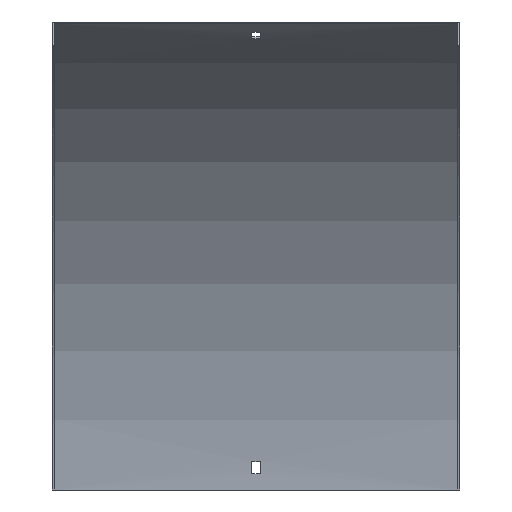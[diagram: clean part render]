
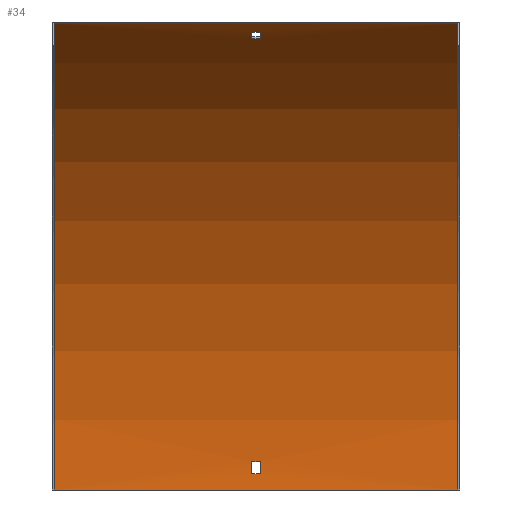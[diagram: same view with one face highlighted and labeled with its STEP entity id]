
A CAD part, front view. The second image highlights one B-rep face of the part: STEP entity #34.
In plain terms, the highlighted cylindrical face has radius 400 mm (diameter 800 mm), a partial arc.
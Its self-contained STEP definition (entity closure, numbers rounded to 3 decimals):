
#2 = VERTEX_POINT ( 'NONE', #129 ) ;
#7 = LINE ( 'NONE', #194, #520 ) ;
#14 = FACE_OUTER_BOUND ( 'NONE', #140, .T. ) ;
#34 = ADVANCED_FACE ( 'NONE', ( #219, #14, #455 ), #392, .F. ) ;
#38 = CARTESIAN_POINT ( 'NONE',  ( -150., -401.5, 0. ) ) ;
#45 = ORIENTED_EDGE ( 'NONE', *, *, #374, .F. ) ;
#51 = CIRCLE ( 'NONE', #128, 400. ) ;
#54 = EDGE_CURVE ( 'NONE', #224, #588, #51, .T. ) ;
#56 = CARTESIAN_POINT ( 'NONE',  ( 151.5, -401.5, 0. ) ) ;
#67 = DIRECTION ( 'NONE',  ( -1., 0., 0. ) ) ;
#74 = DIRECTION ( 'NONE',  ( 1., 0., 0. ) ) ;
#75 = DIRECTION ( 'NONE',  ( -1., 0., 0. ) ) ;
#80 = EDGE_CURVE ( 'NONE', #541, #2, #426, .T. ) ;
#85 = EDGE_CURVE ( 'NONE', #555, #227, #257, .T. ) ;
#90 = DIRECTION ( 'NONE',  ( 0., 0., -1. ) ) ;
#93 = EDGE_LOOP ( 'NONE', ( #139, #104, #123, #500 ) ) ;
#104 = ORIENTED_EDGE ( 'NONE', *, *, #385, .T. ) ;
#107 = DIRECTION ( 'NONE',  ( 0., 0., 1. ) ) ;
#112 = AXIS2_PLACEMENT_3D ( 'NONE', #591, #198, #159 ) ;
#113 = CARTESIAN_POINT ( 'NONE',  ( 151.5, -2.052, 21. ) ) ;
#117 = CARTESIAN_POINT ( 'NONE',  ( -3.25, -191.198, 340.254 ) ) ;
#123 = ORIENTED_EDGE ( 'NONE', *, *, #534, .T. ) ;
#127 = CIRCLE ( 'NONE', #465, 400. ) ;
#128 = AXIS2_PLACEMENT_3D ( 'NONE', #287, #223, #411 ) ;
#129 = CARTESIAN_POINT ( 'NONE',  ( 3.25, -2.052, 21. ) ) ;
#133 = CARTESIAN_POINT ( 'NONE',  ( 150., -1.5, 0. ) ) ;
#134 = CARTESIAN_POINT ( 'NONE',  ( 3.25, -191.198, 340.254 ) ) ;
#139 = ORIENTED_EDGE ( 'NONE', *, *, #85, .T. ) ;
#140 = EDGE_LOOP ( 'NONE', ( #45, #322, #378, #421 ) ) ;
#143 = AXIS2_PLACEMENT_3D ( 'NONE', #56, #177, #107 ) ;
#146 = ORIENTED_EDGE ( 'NONE', *, *, #457, .F. ) ;
#150 = AXIS2_PLACEMENT_3D ( 'NONE', #169, #353, #389 ) ;
#159 = DIRECTION ( 'NONE',  ( 0., 0., -1. ) ) ;
#169 = CARTESIAN_POINT ( 'NONE',  ( 3.25, -401.5, 0. ) ) ;
#173 = ORIENTED_EDGE ( 'NONE', *, *, #422, .F. ) ;
#174 = LINE ( 'NONE', #261, #373 ) ;
#176 = AXIS2_PLACEMENT_3D ( 'NONE', #38, #504, #90 ) ;
#177 = DIRECTION ( 'NONE',  ( -1., 0., 0. ) ) ;
#194 = CARTESIAN_POINT ( 'NONE',  ( 151.5, -1.68, 12. ) ) ;
#198 = DIRECTION ( 'NONE',  ( 1., 0., 0. ) ) ;
#219 = FACE_BOUND ( 'NONE', #516, .T. ) ;
#221 = ORIENTED_EDGE ( 'NONE', *, *, #80, .F. ) ;
#223 = DIRECTION ( 'NONE',  ( 1., 0., 0. ) ) ;
#224 = VERTEX_POINT ( 'NONE', #283 ) ;
#225 = DIRECTION ( 'NONE',  ( -1., 0., 0. ) ) ;
#227 = VERTEX_POINT ( 'NONE', #391 ) ;
#254 = VECTOR ( 'NONE', #67, 1000. ) ;
#257 = LINE ( 'NONE', #259, #473 ) ;
#259 = CARTESIAN_POINT ( 'NONE',  ( 151.5, -183.589, 335.432 ) ) ;
#261 = CARTESIAN_POINT ( 'NONE',  ( 150., -201.5, 346.41 ) ) ;
#279 = CIRCLE ( 'NONE', #176, 400. ) ;
#283 = CARTESIAN_POINT ( 'NONE',  ( 150., -1.5, 0. ) ) ;
#287 = CARTESIAN_POINT ( 'NONE',  ( 150., -401.5, 0. ) ) ;
#291 = EDGE_CURVE ( 'NONE', #565, #560, #607, .T. ) ;
#292 = LINE ( 'NONE', #113, #254 ) ;
#304 = CARTESIAN_POINT ( 'NONE',  ( 151.5, -191.198, 340.254 ) ) ;
#322 = ORIENTED_EDGE ( 'NONE', *, *, #334, .F. ) ;
#325 = ORIENTED_EDGE ( 'NONE', *, *, #291, .F. ) ;
#328 = DIRECTION ( 'NONE',  ( 1., 0., 0. ) ) ;
#334 = EDGE_CURVE ( 'NONE', #224, #417, #546, .T. ) ;
#340 = CARTESIAN_POINT ( 'NONE',  ( -3.25, -1.68, 12. ) ) ;
#350 = CARTESIAN_POINT ( 'NONE',  ( -3.25, -401.5, 0. ) ) ;
#353 = DIRECTION ( 'NONE',  ( -1., 0., 0. ) ) ;
#364 = CARTESIAN_POINT ( 'NONE',  ( 3.25, -183.589, 335.432 ) ) ;
#371 = VERTEX_POINT ( 'NONE', #593 ) ;
#373 = VECTOR ( 'NONE', #225, 1000. ) ;
#374 = EDGE_CURVE ( 'NONE', #417, #371, #279, .T. ) ;
#378 = ORIENTED_EDGE ( 'NONE', *, *, #54, .T. ) ;
#379 = EDGE_CURVE ( 'NONE', #588, #371, #174, .T. ) ;
#385 = EDGE_CURVE ( 'NONE', #227, #513, #127, .T. ) ;
#386 = VECTOR ( 'NONE', #508, 1000. ) ;
#389 = DIRECTION ( 'NONE',  ( 0., 0., 1. ) ) ;
#391 = CARTESIAN_POINT ( 'NONE',  ( -3.25, -183.589, 335.432 ) ) ;
#392 = CYLINDRICAL_SURFACE ( 'NONE', #143, 400. ) ;
#400 = DIRECTION ( 'NONE',  ( 0., 0., 1. ) ) ;
#411 = DIRECTION ( 'NONE',  ( 0., 0., -1. ) ) ;
#413 = VECTOR ( 'NONE', #74, 1000. ) ;
#414 = CARTESIAN_POINT ( 'NONE',  ( -3.25, -401.5, 0. ) ) ;
#416 = CARTESIAN_POINT ( 'NONE',  ( -3.25, -2.052, 21. ) ) ;
#417 = VERTEX_POINT ( 'NONE', #440 ) ;
#418 = DIRECTION ( 'NONE',  ( 1., 0., 0. ) ) ;
#421 = ORIENTED_EDGE ( 'NONE', *, *, #379, .T. ) ;
#422 = EDGE_CURVE ( 'NONE', #560, #541, #7, .T. ) ;
#426 = CIRCLE ( 'NONE', #112, 400. ) ;
#440 = CARTESIAN_POINT ( 'NONE',  ( -150., -1.5, 0. ) ) ;
#447 = CARTESIAN_POINT ( 'NONE',  ( 150., -201.5, 346.41 ) ) ;
#455 = FACE_BOUND ( 'NONE', #93, .T. ) ;
#457 = EDGE_CURVE ( 'NONE', #2, #565, #292, .T. ) ;
#465 = AXIS2_PLACEMENT_3D ( 'NONE', #414, #418, #599 ) ;
#473 = VECTOR ( 'NONE', #498, 1000. ) ;
#498 = DIRECTION ( 'NONE',  ( -1., 0., 0. ) ) ;
#500 = ORIENTED_EDGE ( 'NONE', *, *, #542, .T. ) ;
#501 = AXIS2_PLACEMENT_3D ( 'NONE', #350, #75, #400 ) ;
#504 = DIRECTION ( 'NONE',  ( 1., 0., 0. ) ) ;
#508 = DIRECTION ( 'NONE',  ( -1., 0., 0. ) ) ;
#513 = VERTEX_POINT ( 'NONE', #117 ) ;
#516 = EDGE_LOOP ( 'NONE', ( #325, #146, #221, #173 ) ) ;
#520 = VECTOR ( 'NONE', #328, 1000. ) ;
#534 = EDGE_CURVE ( 'NONE', #513, #576, #539, .T. ) ;
#539 = LINE ( 'NONE', #304, #413 ) ;
#541 = VERTEX_POINT ( 'NONE', #589 ) ;
#542 = EDGE_CURVE ( 'NONE', #576, #555, #595, .T. ) ;
#546 = LINE ( 'NONE', #133, #386 ) ;
#555 = VERTEX_POINT ( 'NONE', #364 ) ;
#560 = VERTEX_POINT ( 'NONE', #340 ) ;
#565 = VERTEX_POINT ( 'NONE', #416 ) ;
#576 = VERTEX_POINT ( 'NONE', #134 ) ;
#588 = VERTEX_POINT ( 'NONE', #447 ) ;
#589 = CARTESIAN_POINT ( 'NONE',  ( 3.25, -1.68, 12. ) ) ;
#591 = CARTESIAN_POINT ( 'NONE',  ( 3.25, -401.5, 0. ) ) ;
#593 = CARTESIAN_POINT ( 'NONE',  ( -150., -201.5, 346.41 ) ) ;
#595 = CIRCLE ( 'NONE', #150, 400. ) ;
#599 = DIRECTION ( 'NONE',  ( 0., 1., 0. ) ) ;
#607 = CIRCLE ( 'NONE', #501, 400. ) ;
